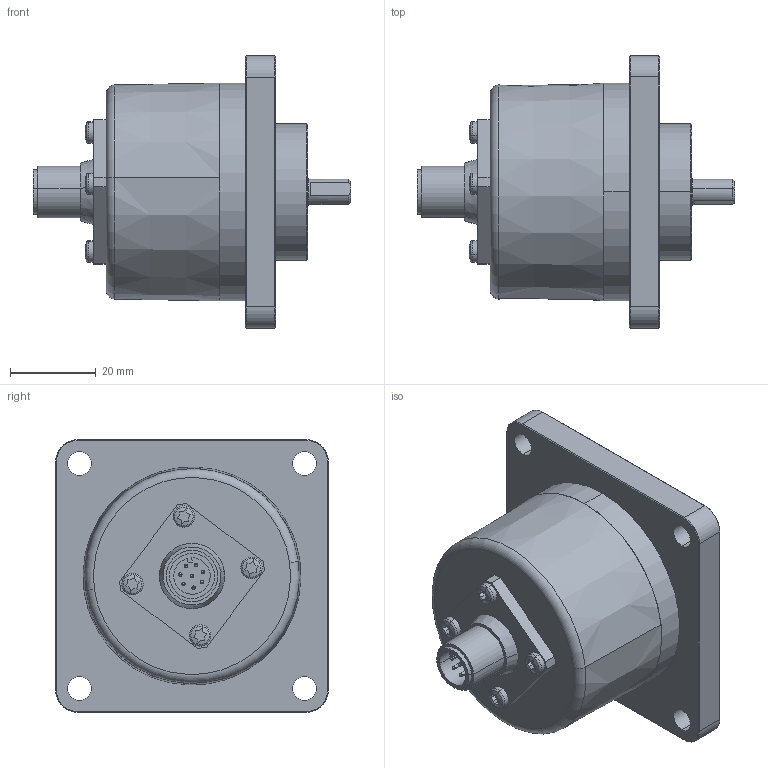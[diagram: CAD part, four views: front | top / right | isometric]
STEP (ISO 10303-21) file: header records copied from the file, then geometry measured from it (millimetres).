
FILE_DESCRIPTION (( 'STEP AP214' ), '1' );
FILE_NAME ('5000.D1X3.XXXX.STEP', '2009-01-14T09:37:55', ( 'admin' ), ( 'Fritz Kübler GmbH' ), 'SwSTEP 2.0', 'SolidWorks 2008', '' );
FILE_SCHEMA (( 'AUTOMOTIVE_DESIGN' ));
Length unit declared in the file: millimetre
Products named in the file (1): 5000.D1X3.XXXX
Bounding box: 74 x 63.5 x 63.5 mm (x, y, z)
Volume: 58873.1 mm3; surface area: 35085.6 mm2
Topology: 9 solids, 10 shells, 519 faces, 1246 edges, 753 vertices
Faces by surface type: plane 153, cylinder 147, cone 87, torus 69, sphere 51, bspline 12
Entity records: 21411 total; most frequent: CARTESIAN_POINT 3675, DIRECTION 2742, ORIENTED_EDGE 2308, EDGE_CURVE 1154, AXIS2_PLACEMENT_3D 1152, VERTEX_POINT 707, CIRCLE 644, EDGE_LOOP 615
